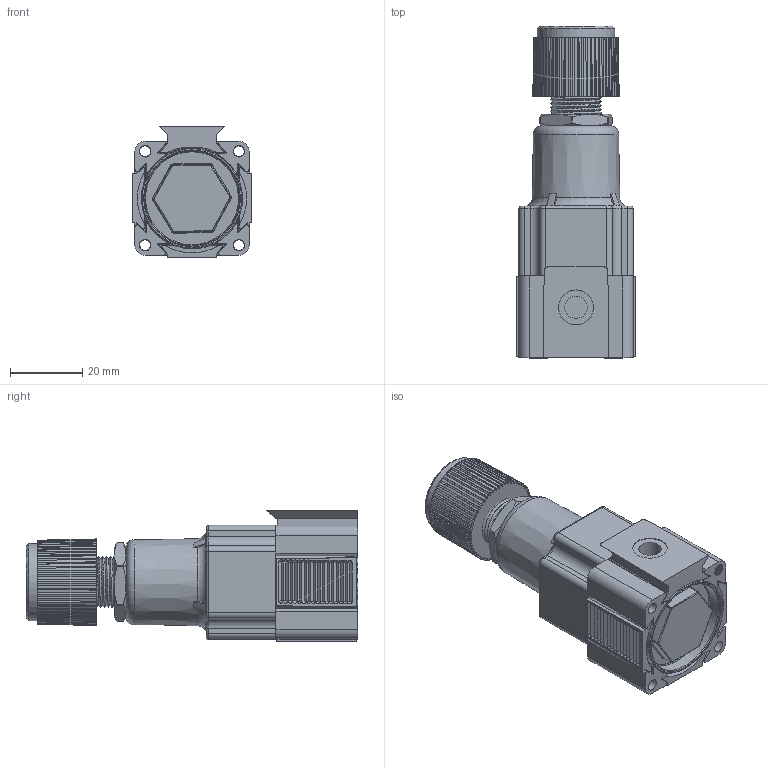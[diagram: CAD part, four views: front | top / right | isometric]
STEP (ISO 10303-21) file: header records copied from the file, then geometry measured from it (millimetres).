
FILE_DESCRIPTION(/* description */ (''),/* implementation_level */ '2;1');
FILE_NAME(/* name */ 'K:\Normteile INVENTOR\Air-Logic\Regulators\NR4000\NR 4___ Double Dovetail.igs.ipt.stp',/* time_stamp */ '2020-05-27T10:51:40+02:00',/* author */ ('nfrench'),/* organization */ (''),/* preprocessor_version */ 'ST-DEVELOPER v18',/* originating_system */ 'Autodesk Inventor 2020',/* authorisation */ '');
FILE_SCHEMA (('AUTOMOTIVE_DESIGN { 1 0 10303 214 3 1 1 }'));
Length unit declared in the file: inch
Products named in the file (1): NR 4___ Double Dovetail.igs
Bounding box: 32.99 x 91.96 x 36.45 mm (x, y, z)
Volume: 63452.9 mm3; surface area: 25660 mm2
Topology: 14 solids, 14 shells, 878 faces, 2373 edges, 1432 vertices
Faces by surface type: plane 381, cylinder 226, cone 181, torus 36, bspline 34, sphere 20
Full cylindrical faces by diameter (mm): 4.039 x1, 4.064 x1, 6.248 x1, 6.35 x1, 9.652 x1, 14.224 x1, 14.287 x3, 21.476 x1, 26.289 x1, 27.94 x1, 28.042 x1
Entity records: 33865 total; most frequent: CARTESIAN_POINT 11443, ORIENTED_EDGE 4546, DIRECTION 4536, EDGE_CURVE 2273, AXIS2_PLACEMENT_3D 1634, VERTEX_POINT 1432, LINE 1268, VECTOR 1268
